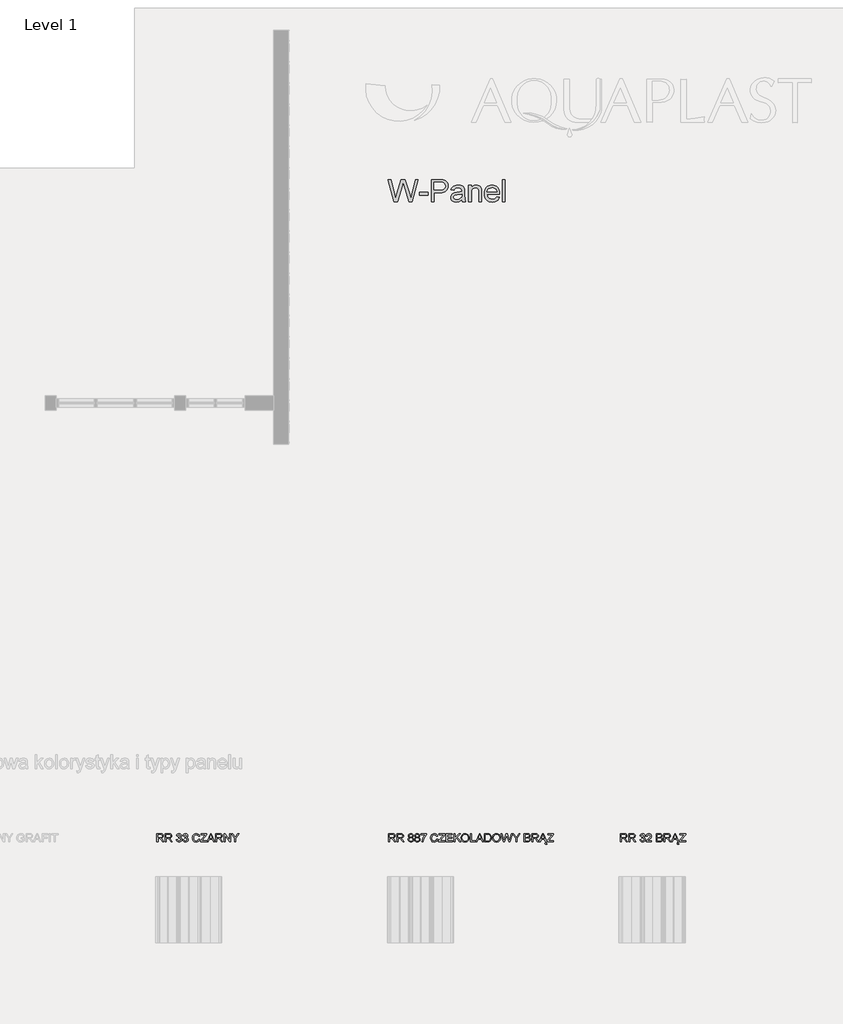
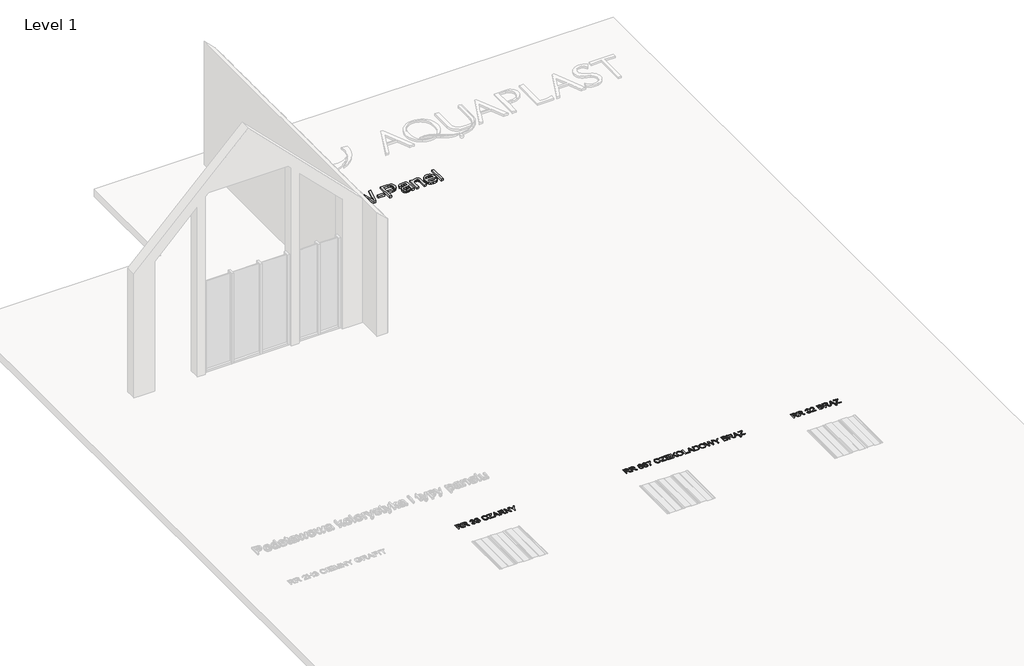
# One storey, part 9 of 9: 4 proxies.
"""IFC4 building model written with IfcOpenShell, lengths in millimetres."""

from ifc_helpers import new_model, si_unit, frame, origin, place, context, project, spatial, polyline, outline, extrude, element, save

model = new_model("IFC4")

# Units and contexts
model_context = context("Model", 3, world=origin())
ifc_project = project(units=[si_unit("LENGTHUNIT", "METRE", prefix="MILLI")], contexts=[model_context])

# Site, building, storey
site = spatial("IfcSite", under=ifc_project)
building = spatial("IfcBuilding", under=site)
storey = spatial("IfcBuildingStorey", under=building, Name="Level 1", Elevation=0.0)

# Proxies
placement = place(None, origin())
element("IfcBuildingElementProxy", 1, Name="150 Blue", ObjectType="150 Blue", at=placement, inside=storey, context=model_context, shape_type="SweptSolid", body=[
    extrude(outline(polyline([(-4536.4118342, 1464.3485888), (-4536.4118342, 1615.033054), (-4471.4806621, 1615.033054), (-4441.3327325, 1610.967958), (-4432.0529092, 1605.3393635), (-4424.8516192, 1596.583772), (-4420.2301016, 1585.7266546), (-4418.6895957, 1573.7934824), (-4421.2417771, 1558.9494439), (-4428.8983211, 1546.6437911), (-4441.8891541, 1537.6214852), (-4460.4442022, 1532.6274871), (-4449.7388361, 1524.5708714), (-4434.4717333, 1505.1834903), (-4409.3453931, 1464.3485888), (-4431.2343718, 1464.3485888), (-4450.8424821, 1495.5817702), (-4465.0059389, 1516.2567383), (-4474.9571469, 1526.0240053), (-4483.9150735, 1529.6108548), (-4494.8411687, 1530.2730423), (-4517.576276, 1530.2730423), (-4517.576276, 1464.3485888), (-4536.4118342, 1464.3485888)]), holes=[polyline([(-4517.576276, 1549.1086005), (-4475.4169994, 1549.1086005), (-4453.9142968, 1551.775745), (-4441.7006145, 1560.3106073), (-4437.5251539, 1573.0945066), (-4439.5163152, 1582.2823594), (-4445.4897991, 1589.6859846), (-4455.7675023, 1594.5696181), (-4470.6713217, 1596.1974959), (-4517.576276, 1596.1974959), (-4517.576276, 1549.1086005)])]), frame((0.0, 0.0, 600.0), z_axis=(0.0, 0.0, 1.0), x_axis=(1.0, 0.0, 0.0)), (0.0, 0.0, 1.0), 10.0),
    extrude(outline(polyline([(-4385.727369, 1464.3485888), (-4385.727369, 1615.033054), (-4320.7961968, 1615.033054), (-4290.6482673, 1610.967958), (-4281.368444, 1605.3393635), (-4274.1671539, 1596.583772), (-4269.5456364, 1585.7266546), (-4268.0051305, 1573.7934824), (-4270.5573119, 1558.9494439), (-4278.2138559, 1546.6437911), (-4291.2046888, 1537.6214852), (-4309.759737, 1532.6274871), (-4299.0543709, 1524.5708714), (-4283.7872681, 1505.1834903), (-4258.6609278, 1464.3485888), (-4280.5499066, 1464.3485888), (-4300.1580169, 1495.5817702), (-4314.3214737, 1516.2567383), (-4324.2726817, 1526.0240053), (-4333.2306083, 1529.6108548), (-4344.1567035, 1530.2730423), (-4366.8918108, 1530.2730423), (-4366.8918108, 1464.3485888), (-4385.727369, 1464.3485888)]), holes=[polyline([(-4366.8918108, 1549.1086005), (-4324.7325342, 1549.1086005), (-4303.2298316, 1551.775745), (-4291.0161493, 1560.3106073), (-4286.8406887, 1573.0945066), (-4288.83185, 1582.2823594), (-4294.8053339, 1589.6859846), (-4305.0830371, 1594.5696181), (-4319.9868564, 1596.1974959), (-4366.8918108, 1596.1974959), (-4366.8918108, 1549.1086005)])]), frame((0.0, 0.0, 600.0), z_axis=(0.0, 0.0, 1.0), x_axis=(1.0, 0.0, 0.0)), (0.0, 0.0, 1.0), 10.0),
    extrude(outline(polyline([(-4183.2451188, 1504.3741499), (-4164.4095607, 1506.7285947), (-4160.1927133, 1494.8919915), (-4154.0168943, 1486.8997551), (-4145.5786011, 1482.3472154), (-4134.5743309, 1480.8297022), (-4121.6616728, 1482.9174325), (-4111.6920708, 1489.1806235), (-4105.3185152, 1498.5248262), (-4103.1939967, 1509.8555916), (-4105.3001211, 1520.6115414), (-4111.6184944, 1529.3349433), (-4121.1834262, 1535.1152891), (-4133.0292265, 1537.0420711), (-4146.2361901, 1534.9819319), (-4144.1392627, 1553.81749), (-4141.1226304, 1553.5967608), (-4119.7486865, 1559.0046262), (-4112.6301699, 1565.8656254), (-4110.257331, 1575.6328924), (-4111.9771793, 1583.767683), (-4117.1367243, 1590.3665663), (-4125.009399, 1594.7397635), (-4134.8686365, 1596.1974959), (-4144.746268, 1594.7259679), (-4152.8212778, 1590.311384), (-4158.7165868, 1582.9537441), (-4162.0551159, 1572.6530482), (-4180.8906741, 1575.007493), (-4175.344853, 1591.9208677), (-4165.4764185, 1604.5484172), (-4151.9751492, 1612.4118948), (-4135.5308241, 1615.033054), (-4112.8141109, 1609.864312), (-4096.9216087, 1595.7376434), (-4091.4217728, 1576.7365383), (-4096.6456972, 1559.3725082), (-4112.096741, 1546.9013085), (-4100.306123, 1542.1372367), (-4091.5689256, 1534.0254387), (-4086.1610603, 1523.0073729), (-4084.3584385, 1509.5244978), (-4087.9636821, 1491.1671863), (-4098.7794127, 1475.8265071), (-4115.1041763, 1465.4522348), (-4135.2365185, 1461.994144), (-4153.4466772, 1464.9463971), (-4168.2723216, 1473.8031561), (-4178.5822145, 1487.3504106), (-4183.2451188, 1504.3741499)])), frame((0.0, 0.0, 600.0), z_axis=(0.0, 0.0, 1.0), x_axis=(1.0, 0.0, 0.0)), (0.0, 0.0, 1.0), 10.0),
    extrude(outline(polyline([(-4067.8773251, 1504.3741499), (-4049.041767, 1506.7285947), (-4044.8249196, 1494.8919915), (-4038.6491006, 1486.8997551), (-4030.2108074, 1482.3472154), (-4019.2065372, 1480.8297022), (-4006.2938792, 1482.9174325), (-3996.3242771, 1489.1806235), (-3989.9507215, 1498.5248262), (-3987.826203, 1509.8555916), (-3989.9323274, 1520.6115414), (-3996.2507007, 1529.3349433), (-4005.8156326, 1535.1152891), (-4017.6614328, 1537.0420711), (-4030.8683964, 1534.9819319), (-4028.7714691, 1553.81749), (-4025.7548367, 1553.5967608), (-4004.3808928, 1559.0046262), (-3997.2623762, 1565.8656254), (-3994.8895373, 1575.6328924), (-3996.6093856, 1583.767683), (-4001.7689306, 1590.3665663), (-4009.6416053, 1594.7397635), (-4019.5008428, 1596.1974959), (-4029.3784744, 1594.7259679), (-4037.4534841, 1590.311384), (-4043.3487931, 1582.9537441), (-4046.6873222, 1572.6530482), (-4065.5228804, 1575.007493), (-4059.9770593, 1591.9208677), (-4050.1086248, 1604.5484172), (-4036.6073556, 1612.4118948), (-4020.1630304, 1615.033054), (-3997.4463172, 1609.864312), (-3981.553815, 1595.7376434), (-3976.0539791, 1576.7365383), (-3981.2779035, 1559.3725082), (-3996.7289473, 1546.9013085), (-3984.9383293, 1542.1372367), (-3976.2011319, 1534.0254387), (-3970.7932666, 1523.0073729), (-3968.9906448, 1509.5244978), (-3972.5958884, 1491.1671863), (-3983.4116191, 1475.8265071), (-3999.7363826, 1465.4522348), (-4019.8687248, 1461.994144), (-4038.0788835, 1464.9463971), (-4052.9045279, 1473.8031561), (-4063.2144209, 1487.3504106), (-4067.8773251, 1504.3741499)])), frame((0.0, 0.0, 600.0), z_axis=(0.0, 0.0, 1.0), x_axis=(1.0, 0.0, 0.0)), (0.0, 0.0, 1.0), 10.0),
    extrude(outline(polyline([(-3780.6350633, 1517.9122073), (-3761.7995052, 1513.056165), (-3770.4907173, 1491.1074054), (-3784.1299423, 1475.072349), (-3802.0457954, 1465.2636953), (-3823.5668921, 1461.994144), (-3845.4144841, 1464.4681505), (-3862.7647187, 1471.8901697), (-3876.0636529, 1484.0026844), (-3885.7573434, 1500.5481771), (-3891.675645, 1519.9999376), (-3893.6484122, 1540.8312556), (-3891.4181276, 1562.8030078), (-3884.7272738, 1581.7765217), (-3873.9253388, 1597.1493905), (-3859.3618103, 1608.3192076), (-3842.0897506, 1615.120426), (-3823.162222, 1617.3874988), (-3802.5102464, 1614.4536399), (-3785.4359233, 1605.6520632), (-3772.4726815, 1591.5253945), (-3764.1539499, 1572.61626), (-3782.9895081, 1568.1280997), (-3789.5194135, 1581.8638936), (-3798.4405519, 1591.2862712), (-3809.8632878, 1596.7355233), (-3823.8979859, 1598.5519407), (-3840.0755967, 1596.5377867), (-3853.3653338, 1590.495325), (-3863.449899, 1581.0591518), (-3870.011994, 1568.8638636), (-3874.8128541, 1540.8680438), (-3873.3919099, 1523.4672254), (-3869.1290773, 1508.4208518), (-3861.8634078, 1496.3037386), (-3851.4339533, 1487.6907014), (-3838.930564, 1482.544952), (-3825.4430903, 1480.8297022), (-3809.7207336, 1483.1657529), (-3796.619536, 1490.1739049), (-3786.7281089, 1501.7805818), (-3780.6350633, 1517.9122073)])), frame((0.0, 0.0, 600.0), z_axis=(0.0, 0.0, 1.0), x_axis=(1.0, 0.0, 0.0)), (0.0, 0.0, 1.0), 10.0),
    extrude(outline(polyline([(-3747.6728365, 1464.3485888), (-3747.6728365, 1483.8831228), (-3670.6383468, 1578.2816427), (-3655.9966433, 1596.1974959), (-3738.2550575, 1596.1974959), (-3738.2550575, 1615.033054), (-3632.3050429, 1615.033054), (-3632.3050429, 1596.1974959), (-3716.6235962, 1492.8962316), (-3724.5698472, 1483.184147), (-3629.9505981, 1483.184147), (-3629.9505981, 1464.3485888), (-3747.6728365, 1464.3485888)])), frame((0.0, 0.0, 600.0), z_axis=(0.0, 0.0, 1.0), x_axis=(1.0, 0.0, 0.0)), (0.0, 0.0, 1.0), 10.0),
    extrude(outline(polyline([(-3626.2717781, 1464.3485888), (-3566.1230719, 1615.033054), (-3550.0834169, 1615.033054), (-3489.9714989, 1464.3485888), (-3509.8739149, 1464.3485888), (-3527.0907922, 1511.4374842), (-3589.189273, 1511.4374842), (-3606.4061504, 1464.3485888), (-3626.2717781, 1464.3485888)]), holes=[polyline([(-3582.2730915, 1530.2730423), (-3533.9701855, 1530.2730423), (-3547.5818194, 1567.3187593), (-3558.1400326, 1596.1974959), (-3567.5210235, 1570.5561208), (-3582.2730915, 1530.2730423)])]), frame((0.0, 0.0, 600.0), z_axis=(0.0, 0.0, 1.0), x_axis=(1.0, 0.0, 0.0)), (0.0, 0.0, 1.0), 10.0),
    extrude(outline(polyline([(-3469.8483538, 1464.3485888), (-3469.8483538, 1615.033054), (-3404.9171816, 1615.033054), (-3374.7692521, 1610.967958), (-3365.4894288, 1605.3393635), (-3358.2881387, 1596.583772), (-3353.6666212, 1585.7266546), (-3352.1261153, 1573.7934824), (-3354.6782967, 1558.9494439), (-3362.3348407, 1546.6437911), (-3375.3256737, 1537.6214852), (-3393.8807218, 1532.6274871), (-3383.1753557, 1524.5708714), (-3367.9082529, 1505.1834903), (-3342.7819127, 1464.3485888), (-3364.6708914, 1464.3485888), (-3384.2790017, 1495.5817702), (-3398.4424585, 1516.2567383), (-3408.3936665, 1526.0240053), (-3417.3515931, 1529.6108548), (-3428.2776883, 1530.2730423), (-3451.0127956, 1530.2730423), (-3451.0127956, 1464.3485888), (-3469.8483538, 1464.3485888)]), holes=[polyline([(-3451.0127956, 1549.1086005), (-3408.853519, 1549.1086005), (-3387.3508164, 1551.775745), (-3375.1371341, 1560.3106073), (-3370.9616735, 1573.0945066), (-3372.9528348, 1582.2823594), (-3378.9263187, 1589.6859846), (-3389.2040219, 1594.5696181), (-3404.1078412, 1596.1974959), (-3451.0127956, 1596.1974959), (-3451.0127956, 1549.1086005)])]), frame((0.0, 0.0, 600.0), z_axis=(0.0, 0.0, 1.0), x_axis=(1.0, 0.0, 0.0)), (0.0, 0.0, 1.0), 10.0),
    extrude(outline(polyline([(-3319.1638886, 1464.3485888), (-3319.1638886, 1615.033054), (-3299.0039552, 1615.033054), (-3220.2772083, 1495.6553466), (-3220.2772083, 1615.033054), (-3201.4416501, 1615.033054), (-3201.4416501, 1464.3485888), (-3221.6015834, 1464.3485888), (-3300.3283304, 1583.7630844), (-3300.3283304, 1464.3485888), (-3319.1638886, 1464.3485888)])), frame((0.0, 0.0, 600.0), z_axis=(0.0, 0.0, 1.0), x_axis=(1.0, 0.0, 0.0)), (0.0, 0.0, 1.0), 10.0),
    extrude(outline(polyline([(-3126.0994175, 1464.3485888), (-3126.0994175, 1528.176115), (-3184.9605367, 1615.033054), (-3162.7772524, 1615.033054), (-3131.36013, 1568.6431344), (-3115.2836868, 1544.951534), (-3099.1336672, 1570.3353916), (-3070.6228126, 1615.033054), (-3048.4027401, 1615.033054), (-3107.2638593, 1528.176115), (-3107.2638593, 1464.3485888), (-3126.0994175, 1464.3485888)])), frame((0.0, 0.0, 600.0), z_axis=(0.0, 0.0, 1.0), x_axis=(1.0, 0.0, 0.0)), (0.0, 0.0, 1.0), 10.0),
])
element("IfcBuildingElementProxy", 2, Name="150 Blue", ObjectType="150 Blue", at=placement, inside=storey, context=model_context, shape_type="SweptSolid", body=[
    extrude(outline(polyline([(-336.4118342, 1464.3485888), (-336.4118342, 1615.033054), (-271.4806621, 1615.033054), (-241.3327325, 1610.967958), (-232.0529092, 1605.3393635), (-224.8516192, 1596.583772), (-220.2301016, 1585.7266546), (-218.6895957, 1573.7934824), (-221.2417771, 1558.9494439), (-228.8983211, 1546.6437911), (-241.8891541, 1537.6214852), (-260.4442022, 1532.6274871), (-249.7388361, 1524.5708714), (-234.4717333, 1505.1834903), (-209.3453931, 1464.3485888), (-231.2343718, 1464.3485888), (-250.8424821, 1495.5817702), (-265.0059389, 1516.2567383), (-274.9571469, 1526.0240053), (-283.9150735, 1529.6108548), (-294.8411687, 1530.2730423), (-317.576276, 1530.2730423), (-317.576276, 1464.3485888), (-336.4118342, 1464.3485888)]), holes=[polyline([(-317.576276, 1549.1086005), (-275.4169994, 1549.1086005), (-253.9142968, 1551.775745), (-241.7006145, 1560.3106073), (-237.5251539, 1573.0945066), (-239.5163152, 1582.2823594), (-245.4897991, 1589.6859846), (-255.7675023, 1594.5696181), (-270.6713217, 1596.1974959), (-317.576276, 1596.1974959), (-317.576276, 1549.1086005)])]), frame((0.0, 0.0, 600.0), z_axis=(0.0, 0.0, 1.0), x_axis=(1.0, 0.0, 0.0)), (0.0, 0.0, 1.0), 10.0),
    extrude(outline(polyline([(-185.727369, 1464.3485888), (-185.727369, 1615.033054), (-120.7961968, 1615.033054), (-90.6482673, 1610.967958), (-81.368444, 1605.3393635), (-74.1671539, 1596.583772), (-69.5456364, 1585.7266546), (-68.0051305, 1573.7934824), (-70.5573119, 1558.9494439), (-78.2138559, 1546.6437911), (-91.2046888, 1537.6214852), (-109.759737, 1532.6274871), (-99.0543709, 1524.5708714), (-83.7872681, 1505.1834903), (-58.6609278, 1464.3485888), (-80.5499066, 1464.3485888), (-100.1580169, 1495.5817702), (-114.3214737, 1516.2567383), (-124.2726817, 1526.0240053), (-133.2306083, 1529.6108548), (-144.1567035, 1530.2730423), (-166.8918108, 1530.2730423), (-166.8918108, 1464.3485888), (-185.727369, 1464.3485888)]), holes=[polyline([(-166.8918108, 1549.1086005), (-124.7325342, 1549.1086005), (-103.2298316, 1551.775745), (-91.0161493, 1560.3106073), (-86.8406887, 1573.0945066), (-88.83185, 1582.2823594), (-94.8053339, 1589.6859846), (-105.0830371, 1594.5696181), (-119.9868564, 1596.1974959), (-166.8918108, 1596.1974959), (-166.8918108, 1549.1086005)])]), frame((0.0, 0.0, 600.0), z_axis=(0.0, 0.0, 1.0), x_axis=(1.0, 0.0, 0.0)), (0.0, 0.0, 1.0), 10.0),
    extrude(outline(polyline([(44.198878, 1547.3427669), (27.0371829, 1559.0414144), (21.4637707, 1577.2515731), (24.4987972, 1591.97605), (33.6038765, 1604.143747), (47.7581363, 1612.3107273), (65.9407039, 1615.033054), (84.2336361, 1612.2463479), (98.5718369, 1603.8862296), (107.8424632, 1591.5253945), (110.9326719, 1576.7365383), (105.4328361, 1558.9862321), (88.7493876, 1547.3427669), (100.342269, 1541.369283), (108.7805623, 1532.5723048), (113.9263117, 1521.3748966), (115.6415615, 1508.2001226), (112.238653, 1490.192299), (102.0299276, 1475.3114723), (86.2661842, 1465.3234761), (66.1982213, 1461.994144), (46.1302585, 1465.3372717), (30.366515, 1475.3666546), (20.1577896, 1490.3900355), (16.7548812, 1508.7151574), (18.5391088, 1522.4003677), (23.8917919, 1533.6575567), (32.5370188, 1542.1004485), (44.198878, 1547.3427669)]), holes=[polyline([(40.2993289, 1576.6997501), (41.9685934, 1568.4775875), (46.9763871, 1561.9108939), (55.175557, 1557.6066746), (66.4189505, 1556.1719348), (77.4002281, 1557.5974775), (85.4752379, 1561.8741057), (90.4416448, 1568.2200702), (92.0971138, 1575.8536216), (90.3864625, 1583.77688), (85.2545087, 1590.3297781), (77.0691343, 1594.7305664), (66.1982213, 1596.1974959), (55.2583305, 1594.7627561), (47.0867517, 1590.4585368), (41.9961846, 1584.1493605), (40.2993289, 1576.6997501)]), polyline([(35.5904393, 1509.377345), (38.7358304, 1495.1954941), (49.8642607, 1484.5820985), (66.3453741, 1480.8297022), (79.1660616, 1482.8024694), (88.7861758, 1488.720771), (94.8010464, 1497.6832961), (96.8060033, 1508.7887338), (94.7366671, 1520.0827111), (88.5286584, 1529.2429728), (78.6878151, 1535.3130257), (65.7199747, 1537.3363767), (53.0786297, 1535.3406168), (43.5550845, 1529.3533374), (37.5816006, 1520.3678196), (35.5904393, 1509.377345)])]), frame((0.0, 0.0, 600.0), z_axis=(0.0, 0.0, 1.0), x_axis=(1.0, 0.0, 0.0)), (0.0, 0.0, 1.0), 10.0),
    extrude(outline(polyline([(159.5666717, 1547.3427669), (142.4049766, 1559.0414144), (136.8315644, 1577.2515731), (139.8665909, 1591.97605), (148.9716702, 1604.143747), (163.12593, 1612.3107273), (181.3084976, 1615.033054), (199.6014298, 1612.2463479), (213.9396306, 1603.8862296), (223.2102569, 1591.5253945), (226.3004656, 1576.7365383), (220.8006298, 1558.9862321), (204.1171813, 1547.3427669), (215.7100627, 1541.369283), (224.1483559, 1532.5723048), (229.2941054, 1521.3748966), (231.0093552, 1508.2001226), (227.6064467, 1490.192299), (217.3977213, 1475.3114723), (201.6339778, 1465.3234761), (181.566015, 1461.994144), (161.4980522, 1465.3372717), (145.7343087, 1475.3666546), (135.5255833, 1490.3900355), (132.1226749, 1508.7151574), (133.9069025, 1522.4003677), (139.2595856, 1533.6575567), (147.9048124, 1542.1004485), (159.5666717, 1547.3427669)]), holes=[polyline([(155.6671225, 1576.6997501), (157.3363871, 1568.4775875), (162.3441808, 1561.9108939), (170.5433507, 1557.6066746), (181.7867442, 1556.1719348), (192.7680218, 1557.5974775), (200.8430316, 1561.8741057), (205.8094385, 1568.2200702), (207.4649075, 1575.8536216), (205.7542562, 1583.77688), (200.6223024, 1590.3297781), (192.436928, 1594.7305664), (181.566015, 1596.1974959), (170.6261242, 1594.7627561), (162.4545454, 1590.4585368), (157.3639782, 1584.1493605), (155.6671225, 1576.6997501)]), polyline([(150.958233, 1509.377345), (154.1036241, 1495.1954941), (165.2320544, 1484.5820985), (181.7131678, 1480.8297022), (194.5338553, 1482.8024694), (204.1539695, 1488.720771), (210.1688401, 1497.6832961), (212.173797, 1508.7887338), (210.1044608, 1520.0827111), (203.8964521, 1529.2429728), (194.0556087, 1535.3130257), (181.0877684, 1537.3363767), (168.4464234, 1535.3406168), (158.9228782, 1529.3533374), (152.9493943, 1520.3678196), (150.958233, 1509.377345)])]), frame((0.0, 0.0, 600.0), z_axis=(0.0, 0.0, 1.0), x_axis=(1.0, 0.0, 0.0)), (0.0, 0.0, 1.0), 10.0),
    extrude(outline(polyline([(247.4904685, 1593.8430511), (247.4904685, 1612.6786093), (346.3771488, 1612.6786093), (346.3771488, 1597.4482947), (318.3261467, 1556.9260929), (306.0158954, 1531.4640603), (296.8602323, 1505.2938549), (289.8704744, 1464.3485888), (271.0349162, 1464.3485888), (278.5213148, 1506.8389593), (287.2355196, 1531.2985134), (299.0675243, 1554.8659537), (327.5415907, 1593.8430511), (247.4904685, 1593.8430511)])), frame((0.0, 0.0, 600.0), z_axis=(0.0, 0.0, 1.0), x_axis=(1.0, 0.0, 0.0)), (0.0, 0.0, 1.0), 10.0),
    extrude(outline(polyline([(534.7327304, 1517.9122073), (553.5682885, 1513.056165), (544.8770764, 1491.1074054), (531.2378514, 1475.072349), (513.3219983, 1465.2636953), (491.8009015, 1461.994144), (469.9533096, 1464.4681505), (452.603075, 1471.8901697), (439.3041408, 1484.0026844), (429.6104503, 1500.5481771), (423.6921487, 1519.9999376), (421.7193815, 1540.8312556), (423.9496661, 1562.8030078), (430.6405198, 1581.7765217), (441.4424549, 1597.1493905), (456.0059834, 1608.3192076), (473.2780431, 1615.120426), (492.2055717, 1617.3874988), (512.8575472, 1614.4536399), (529.9318703, 1605.6520632), (542.8951121, 1591.5253945), (551.2138438, 1572.61626), (532.3782856, 1568.1280997), (525.8483802, 1581.8638936), (516.9272418, 1591.2862712), (505.5045059, 1596.7355233), (491.4698077, 1598.5519407), (475.292197, 1596.5377867), (462.0024599, 1590.495325), (451.9178947, 1581.0591518), (445.3557996, 1568.8638636), (440.5549396, 1540.8680438), (441.9758838, 1523.4672254), (446.2387164, 1508.4208518), (453.5043858, 1496.3037386), (463.9338404, 1487.6907014), (476.4372297, 1482.544952), (489.9247034, 1480.8297022), (505.6470601, 1483.1657529), (518.7482577, 1490.1739049), (528.6396848, 1501.7805818), (534.7327304, 1517.9122073)])), frame((0.0, 0.0, 600.0), z_axis=(0.0, 0.0, 1.0), x_axis=(1.0, 0.0, 0.0)), (0.0, 0.0, 1.0), 10.0),
    extrude(outline(polyline([(567.6949571, 1464.3485888), (567.6949571, 1483.8831228), (644.7294469, 1578.2816427), (659.3711503, 1596.1974959), (577.1127362, 1596.1974959), (577.1127362, 1615.033054), (683.0627508, 1615.033054), (683.0627508, 1596.1974959), (598.7441975, 1492.8962316), (590.7979464, 1483.184147), (685.4171956, 1483.184147), (685.4171956, 1464.3485888), (567.6949571, 1464.3485888)])), frame((0.0, 0.0, 600.0), z_axis=(0.0, 0.0, 1.0), x_axis=(1.0, 0.0, 0.0)), (0.0, 0.0, 1.0), 10.0),
    extrude(outline(polyline([(706.6071985, 1464.3485888), (706.6071985, 1615.033054), (814.9116579, 1615.033054), (814.9116579, 1596.1974959), (725.4427567, 1596.1974959), (725.4427567, 1551.4630453), (810.2027684, 1551.4630453), (810.2027684, 1532.6274871), (725.4427567, 1532.6274871), (725.4427567, 1483.184147), (817.2661027, 1483.184147), (817.2661027, 1464.3485888), (706.6071985, 1464.3485888)])), frame((0.0, 0.0, 600.0), z_axis=(0.0, 0.0, 1.0), x_axis=(1.0, 0.0, 0.0)), (0.0, 0.0, 1.0), 10.0),
    extrude(outline(polyline([(845.5194399, 1464.3485888), (845.5194399, 1615.033054), (864.3549981, 1615.033054), (864.3549981, 1541.272714), (941.610217, 1615.033054), (967.9505679, 1615.033054), (903.0561839, 1553.081726), (970.3050127, 1464.3485888), (947.2755998, 1464.3485888), (889.7020675, 1540.353009), (864.3549981, 1516.1463737), (864.3549981, 1464.3485888), (845.5194399, 1464.3485888)])), frame((0.0, 0.0, 600.0), z_axis=(0.0, 0.0, 1.0), x_axis=(1.0, 0.0, 0.0)), (0.0, 0.0, 1.0), 10.0),
    extrude(outline(polyline([(977.368347, 1537.7042587), (982.3899362, 1571.0251704), (988.6669227, 1584.643702), (997.4547039, 1596.2342841), (1020.4565257, 1612.0991951), (1049.289277, 1617.3874988), (1069.0537372, 1614.9042953), (1086.7764523, 1607.4546849), (1101.4917321, 1595.5628994), (1112.2338864, 1579.7531707), (1118.80058, 1560.7888538), (1120.9894779, 1539.433304), (1118.6856169, 1517.7926457), (1111.7740339, 1498.5616144), (1100.6364065, 1482.7242945), (1085.6544123, 1471.2647703), (1068.0834485, 1464.3118006), (1049.1789124, 1461.994144), (1029.1109496, 1464.5555224), (1011.2870669, 1472.2396576), (996.6085753, 1484.3521723), (985.9767857, 1500.1986892), (979.5204566, 1518.4318406), (977.368347, 1537.7042587)]), holes=[polyline([(996.2039051, 1537.5203177), (999.9700971, 1513.9482788), (1011.2686728, 1495.9864404), (1028.2510254, 1484.6188867), (1049.0685478, 1480.8297022), (1070.1895729, 1484.6556749), (1087.1995166, 1496.1335932), (1098.415319, 1514.6472546), (1102.1539197, 1539.5804568), (1100.5536331, 1556.2547083), (1095.752773, 1570.6664854), (1087.8754998, 1582.4525048), (1077.0459736, 1591.249483), (1063.9815642, 1596.7263263), (1049.3996416, 1598.5519407), (1029.1385407, 1595.0340691), (1011.9124663, 1584.4804543), (1000.1310454, 1565.704677), (996.2039051, 1537.5203177)])]), frame((0.0, 0.0, 600.0), z_axis=(0.0, 0.0, 1.0), x_axis=(1.0, 0.0, 0.0)), (0.0, 0.0, 1.0), 10.0),
    extrude(outline(polyline([(1146.8883704, 1464.3485888), (1146.8883704, 1615.033054), (1165.7239285, 1615.033054), (1165.7239285, 1483.184147), (1241.0661611, 1483.184147), (1241.0661611, 1464.3485888), (1146.8883704, 1464.3485888)])), frame((0.0, 0.0, 600.0), z_axis=(0.0, 0.0, 1.0), x_axis=(1.0, 0.0, 0.0)), (0.0, 0.0, 1.0), 10.0),
    extrude(outline(polyline([(1244.7449811, 1464.3485888), (1304.8936873, 1615.033054), (1320.9333423, 1615.033054), (1381.0452603, 1464.3485888), (1361.1428443, 1464.3485888), (1343.925967, 1511.4374842), (1281.8274862, 1511.4374842), (1264.6106088, 1464.3485888), (1244.7449811, 1464.3485888)]), holes=[polyline([(1288.7436677, 1530.2730423), (1337.0465737, 1530.2730423), (1323.4349398, 1567.3187593), (1312.8767266, 1596.1974959), (1303.4957357, 1570.5561208), (1288.7436677, 1530.2730423)])]), frame((0.0, 0.0, 600.0), z_axis=(0.0, 0.0, 1.0), x_axis=(1.0, 0.0, 0.0)), (0.0, 0.0, 1.0), 10.0),
    extrude(outline(polyline([(1401.1684054, 1464.3485888), (1401.1684054, 1615.033054), (1453.1501313, 1615.033054), (1480.0423052, 1612.8625503), (1502.1888013, 1602.0836078), (1512.6090588, 1590.6056896), (1520.0310781, 1576.3318681), (1524.4732531, 1559.5380551), (1525.9539782, 1540.5001618), (1521.9440644, 1510.0947149), (1511.6433686, 1488.1505539), (1497.8845819, 1474.4837378), (1479.8767583, 1466.9237628), (1455.6517289, 1464.3485888), (1401.1684054, 1464.3485888)]), holes=[polyline([(1420.0039636, 1483.184147), (1453.3340723, 1483.184147), (1477.5774958, 1485.9064737), (1491.5570116, 1493.5952074), (1503.0165358, 1512.3020069), (1507.11842, 1540.7944674), (1505.1088646, 1561.3222827), (1499.0801984, 1576.4790209), (1490.1728556, 1586.8900814), (1479.5272704, 1593.1808635), (1452.8190375, 1596.1974959), (1420.0039636, 1596.1974959), (1420.0039636, 1483.184147)])]), frame((0.0, 0.0, 600.0), z_axis=(0.0, 0.0, 1.0), x_axis=(1.0, 0.0, 0.0)), (0.0, 0.0, 1.0), 10.0),
    extrude(outline(polyline([(1544.7895363, 1537.7042587), (1549.8111256, 1571.0251704), (1556.0881121, 1584.643702), (1564.8758933, 1596.2342841), (1587.877715, 1612.0991951), (1616.7104664, 1617.3874988), (1636.4749266, 1614.9042953), (1654.1976417, 1607.4546849), (1668.9129215, 1595.5628994), (1679.6550758, 1579.7531707), (1686.2217694, 1560.7888538), (1688.4106673, 1539.433304), (1686.1068063, 1517.7926457), (1679.1952233, 1498.5616144), (1668.0575959, 1482.7242945), (1653.0756016, 1471.2647703), (1635.5046378, 1464.3118006), (1616.6001018, 1461.994144), (1596.532139, 1464.5555224), (1578.7082563, 1472.2396576), (1564.0297647, 1484.3521723), (1553.397975, 1500.1986892), (1546.941646, 1518.4318406), (1544.7895363, 1537.7042587)]), holes=[polyline([(1563.6250945, 1537.5203177), (1567.3912864, 1513.9482788), (1578.6898622, 1495.9864404), (1595.6722148, 1484.6188867), (1616.4897372, 1480.8297022), (1637.6107622, 1484.6556749), (1654.620706, 1496.1335932), (1665.8365083, 1514.6472546), (1669.5751091, 1539.5804568), (1667.9748224, 1556.2547083), (1663.1739624, 1570.6664854), (1655.2966892, 1582.4525048), (1644.4671629, 1591.249483), (1631.4027536, 1596.7263263), (1616.820831, 1598.5519407), (1596.5597301, 1595.0340691), (1579.3336557, 1584.4804543), (1567.5522348, 1565.704677), (1563.6250945, 1537.5203177)])]), frame((0.0, 0.0, 600.0), z_axis=(0.0, 0.0, 1.0), x_axis=(1.0, 0.0, 0.0)), (0.0, 0.0, 1.0), 10.0),
    extrude(outline(polyline([(1741.27531, 1464.3485888), (1700.1828911, 1615.033054), (1719.6070604, 1615.033054), (1743.4458137, 1515.9992209), (1750.8034536, 1485.4282271), (1758.6761283, 1512.4675538), (1788.5481463, 1615.033054), (1816.5439662, 1615.033054), (1838.2490039, 1540.6841028), (1854.3990235, 1485.4282271), (1861.5359342, 1515.1163041), (1885.5586285, 1615.033054), (1905.019586, 1615.033054), (1863.9639553, 1464.3485888), (1843.804022, 1464.3485888), (1807.6412219, 1580.5992993), (1802.6012386, 1596.8228953), (1796.9358558, 1577.2883613), (1764.0104173, 1464.3485888), (1741.27531, 1464.3485888)])), frame((0.0, 0.0, 600.0), z_axis=(0.0, 0.0, 1.0), x_axis=(1.0, 0.0, 0.0)), (0.0, 0.0, 1.0), 10.0),
    extrude(outline(polyline([(1966.23515, 1464.3485888), (1966.23515, 1528.176115), (1907.3740308, 1615.033054), (1929.5573151, 1615.033054), (1960.9744375, 1568.6431344), (1977.0508807, 1544.951534), (1993.2009003, 1570.3353916), (2021.7117549, 1615.033054), (2043.9318274, 1615.033054), (1985.0707082, 1528.176115), (1985.0707082, 1464.3485888), (1966.23515, 1464.3485888)])), frame((0.0, 0.0, 600.0), z_axis=(0.0, 0.0, 1.0), x_axis=(1.0, 0.0, 0.0)), (0.0, 0.0, 1.0), 10.0),
    extrude(outline(polyline([(2119.27406, 1464.3485888), (2119.27406, 1615.033054), (2176.7740158, 1615.033054), (2204.9353826, 1610.600076), (2214.3991469, 1604.97608), (2221.5636488, 1596.9700481), (2227.5785194, 1577.6930315), (2222.5201419, 1560.0898781), (2207.234645, 1546.7541557), (2217.9078214, 1541.1807435), (2225.7942917, 1532.7010635), (2230.6641296, 1521.8761358), (2232.2874089, 1509.2669804), (2227.8544309, 1489.0150766), (2216.8731533, 1474.5941024), (2200.4840104, 1466.9421569), (2176.3325575, 1464.3485888), (2119.27406, 1464.3485888)]), holes=[polyline([(2138.1096182, 1553.81749), (2172.5065847, 1553.81749), (2192.5929416, 1555.4361708), (2204.6778652, 1562.4075346), (2208.7429612, 1574.6763992), (2204.9537767, 1586.9636578), (2194.1012578, 1594.2293272), (2169.8946225, 1596.1974959), (2138.1096182, 1596.1974959), (2138.1096182, 1553.81749)]), polyline([(2138.1096182, 1483.184147), (2176.7372276, 1483.184147), (2190.7167435, 1483.919911), (2202.5441496, 1488.0217952), (2210.3800361, 1496.3911106), (2213.4518508, 1509.0830394), (2209.8466072, 1523.7247428), (2198.1663539, 1532.4619402), (2174.8978177, 1534.9819319), (2138.1096182, 1534.9819319), (2138.1096182, 1483.184147)])]), frame((0.0, 0.0, 600.0), z_axis=(0.0, 0.0, 1.0), x_axis=(1.0, 0.0, 0.0)), (0.0, 0.0, 1.0), 10.0),
    extrude(outline(polyline([(2258.1863014, 1464.3485888), (2258.1863014, 1615.033054), (2323.1174735, 1615.033054), (2353.265403, 1610.967958), (2362.5452264, 1605.3393635), (2369.7465164, 1596.583772), (2374.368034, 1585.7266546), (2375.9085398, 1573.7934824), (2373.3563585, 1558.9494439), (2365.6998145, 1546.6437911), (2352.7089815, 1537.6214852), (2334.1539334, 1532.6274871), (2344.8592994, 1524.5708714), (2360.1264022, 1505.1834903), (2385.2527425, 1464.3485888), (2363.3637638, 1464.3485888), (2343.7556535, 1495.5817702), (2329.5921966, 1516.2567383), (2319.6409887, 1526.0240053), (2310.6830621, 1529.6108548), (2299.7569668, 1530.2730423), (2277.0218595, 1530.2730423), (2277.0218595, 1464.3485888), (2258.1863014, 1464.3485888)]), holes=[polyline([(2277.0218595, 1549.1086005), (2319.1811362, 1549.1086005), (2340.6838388, 1551.775745), (2352.897521, 1560.3106073), (2357.0729817, 1573.0945066), (2355.0818204, 1582.2823594), (2349.1083365, 1589.6859846), (2338.8306332, 1594.5696181), (2323.9268139, 1596.1974959), (2277.0218595, 1596.1974959), (2277.0218595, 1549.1086005)])]), frame((0.0, 0.0, 600.0), z_axis=(0.0, 0.0, 1.0), x_axis=(1.0, 0.0, 0.0)), (0.0, 0.0, 1.0), 10.0),
    extrude(outline(polyline([(2391.3595836, 1464.3485888), (2451.5082898, 1615.033054), (2467.5479448, 1615.033054), (2527.6598628, 1464.3485888), (2524.7535951, 1464.3485888), (2515.6853039, 1455.2435094), (2512.4663364, 1444.2622319), (2514.7655989, 1436.7942274), (2522.2152093, 1433.7408068), (2526.9240989, 1434.4029944), (2531.3018946, 1436.168828), (2531.3018946, 1423.1825936), (2518.094931, 1419.6141382), (2509.43131, 1421.1224544), (2503.2508925, 1425.2795209), (2499.5536784, 1431.3679679), (2498.3396678, 1438.7440019), (2502.0184878, 1452.1165125), (2512.4295482, 1464.3485888), (2507.7574469, 1464.3485888), (2490.5405695, 1511.4374842), (2428.4420887, 1511.4374842), (2411.2252114, 1464.3485888), (2391.3595836, 1464.3485888)]), holes=[polyline([(2435.3582703, 1530.2730423), (2483.6611762, 1530.2730423), (2470.0495424, 1567.3187593), (2459.4913291, 1596.1974959), (2450.1103383, 1570.5561208), (2435.3582703, 1530.2730423)])]), frame((0.0, 0.0, 600.0), z_axis=(0.0, 0.0, 1.0), x_axis=(1.0, 0.0, 0.0)), (0.0, 0.0, 1.0), 10.0),
    extrude(outline(polyline([(2536.0107841, 1464.3485888), (2536.0107841, 1483.8831228), (2613.0452739, 1578.2816427), (2627.6869773, 1596.1974959), (2545.4285632, 1596.1974959), (2545.4285632, 1615.033054), (2651.3785778, 1615.033054), (2651.3785778, 1596.1974959), (2567.0600245, 1492.8962316), (2559.1137734, 1483.184147), (2653.7330226, 1483.184147), (2653.7330226, 1464.3485888), (2536.0107841, 1464.3485888)])), frame((0.0, 0.0, 600.0), z_axis=(0.0, 0.0, 1.0), x_axis=(1.0, 0.0, 0.0)), (0.0, 0.0, 1.0), 10.0),
])
element("IfcBuildingElementProxy", 3, Name="150 Blue", ObjectType="150 Blue", at=placement, inside=storey, context=model_context, shape_type="SweptSolid", body=[
    extrude(outline(polyline([(3863.5881658, 1464.3485888), (3863.5881658, 1615.033054), (3928.5193379, 1615.033054), (3958.6672675, 1610.967958), (3967.9470908, 1605.3393635), (3975.1483808, 1596.583772), (3979.7698984, 1585.7266546), (3981.3104043, 1573.7934824), (3978.7582229, 1558.9494439), (3971.1016789, 1546.6437911), (3958.1108459, 1537.6214852), (3939.5557978, 1532.6274871), (3950.2611639, 1524.5708714), (3965.5282667, 1505.1834903), (3990.6546069, 1464.3485888), (3968.7656282, 1464.3485888), (3949.1575179, 1495.5817702), (3934.9940611, 1516.2567383), (3925.0428531, 1526.0240053), (3916.0849265, 1529.6108548), (3905.1588313, 1530.2730423), (3882.423724, 1530.2730423), (3882.423724, 1464.3485888), (3863.5881658, 1464.3485888)]), holes=[polyline([(3882.423724, 1549.1086005), (3924.5830006, 1549.1086005), (3946.0857032, 1551.775745), (3958.2993855, 1560.3106073), (3962.4748461, 1573.0945066), (3960.4836848, 1582.2823594), (3954.5102009, 1589.6859846), (3944.2324977, 1594.5696181), (3929.3286783, 1596.1974959), (3882.423724, 1596.1974959), (3882.423724, 1549.1086005)])]), frame((0.0, 0.0, 600.0), z_axis=(0.0, 0.0, 1.0), x_axis=(1.0, 0.0, 0.0)), (0.0, 0.0, 1.0), 10.0),
    extrude(outline(polyline([(4014.272631, 1464.3485888), (4014.272631, 1615.033054), (4079.2038032, 1615.033054), (4109.3517327, 1610.967958), (4118.631556, 1605.3393635), (4125.8328461, 1596.583772), (4130.4543636, 1585.7266546), (4131.9948695, 1573.7934824), (4129.4426881, 1558.9494439), (4121.7861441, 1546.6437911), (4108.7953112, 1537.6214852), (4090.240263, 1532.6274871), (4100.9456291, 1524.5708714), (4116.2127319, 1505.1834903), (4141.3390722, 1464.3485888), (4119.4500934, 1464.3485888), (4099.8419831, 1495.5817702), (4085.6785263, 1516.2567383), (4075.7273183, 1526.0240053), (4066.7693917, 1529.6108548), (4055.8432965, 1530.2730423), (4033.1081892, 1530.2730423), (4033.1081892, 1464.3485888), (4014.272631, 1464.3485888)]), holes=[polyline([(4033.1081892, 1549.1086005), (4075.2674658, 1549.1086005), (4096.7701684, 1551.775745), (4108.9838507, 1560.3106073), (4113.1593113, 1573.0945066), (4111.16815, 1582.2823594), (4105.1946661, 1589.6859846), (4094.9169629, 1594.5696181), (4080.0131436, 1596.1974959), (4033.1081892, 1596.1974959), (4033.1081892, 1549.1086005)])]), frame((0.0, 0.0, 600.0), z_axis=(0.0, 0.0, 1.0), x_axis=(1.0, 0.0, 0.0)), (0.0, 0.0, 1.0), 10.0),
    extrude(outline(polyline([(4216.7548812, 1504.3741499), (4235.5904393, 1506.7285947), (4239.8072867, 1494.8919915), (4245.9831057, 1486.8997551), (4254.4213989, 1482.3472154), (4265.4256691, 1480.8297022), (4278.3383272, 1482.9174325), (4288.3079292, 1489.1806235), (4294.6814848, 1498.5248262), (4296.8060033, 1509.8555916), (4294.6998789, 1520.6115414), (4288.3815056, 1529.3349433), (4278.8165738, 1535.1152891), (4266.9707735, 1537.0420711), (4253.7638099, 1534.9819319), (4255.8607373, 1553.81749), (4258.8773696, 1553.5967608), (4280.2513135, 1559.0046262), (4287.3698301, 1565.8656254), (4289.742669, 1575.6328924), (4288.0228207, 1583.767683), (4282.8632757, 1590.3665663), (4274.990601, 1594.7397635), (4265.1313635, 1596.1974959), (4255.253732, 1594.7259679), (4247.1787222, 1590.311384), (4241.2834132, 1582.9537441), (4237.9448841, 1572.6530482), (4219.1093259, 1575.007493), (4224.655147, 1591.9208677), (4234.5235815, 1604.5484172), (4248.0248508, 1612.4118948), (4264.4691759, 1615.033054), (4287.1858891, 1609.864312), (4303.0783913, 1595.7376434), (4308.5782272, 1576.7365383), (4303.3543028, 1559.3725082), (4287.903259, 1546.9013085), (4299.693877, 1542.1372367), (4308.4310744, 1534.0254387), (4313.8389397, 1523.0073729), (4315.6415615, 1509.5244978), (4312.0363179, 1491.1671863), (4301.2205873, 1475.8265071), (4284.8958237, 1465.4522348), (4264.7634815, 1461.994144), (4246.5533228, 1464.9463971), (4231.7276784, 1473.8031561), (4221.4177855, 1487.3504106), (4216.7548812, 1504.3741499)])), frame((0.0, 0.0, 600.0), z_axis=(0.0, 0.0, 1.0), x_axis=(1.0, 0.0, 0.0)), (0.0, 0.0, 1.0), 10.0),
    extrude(outline(polyline([(4428.6549104, 1483.184147), (4428.6549104, 1464.3485888), (4329.7682301, 1464.3485888), (4331.7915811, 1477.3348232), (4343.2511052, 1497.3292097), (4366.8507352, 1519.1630061), (4399.3531095, 1550.5433403), (4405.436958, 1561.3590709), (4407.4649075, 1571.880496), (4405.5473226, 1581.3120707), (4399.7945679, 1589.1525557), (4390.9516044, 1594.4362608), (4379.7633932, 1596.1974959), (4368.014162, 1594.4776476), (4358.88609, 1589.3181026), (4352.9953796, 1581.1235311), (4350.958233, 1570.2986034), (4332.1226749, 1572.6530482), (4336.6890101, 1590.872404), (4346.5620432, 1604.1805352), (4361.2267392, 1612.3199243), (4380.1680634, 1615.033054), (4399.2473434, 1612.0164217), (4413.8844483, 1602.9665246), (4423.1964613, 1589.4468613), (4426.3004656, 1573.0209302), (4422.9527395, 1555.1602593), (4411.8243091, 1536.6925832), (4384.8401648, 1510.8856612), (4363.1719152, 1492.7674729), (4354.6738412, 1483.184147), (4428.6549104, 1483.184147)])), frame((0.0, 0.0, 600.0), z_axis=(0.0, 0.0, 1.0), x_axis=(1.0, 0.0, 0.0)), (0.0, 0.0, 1.0), 10.0),
    extrude(outline(polyline([(4513.4149221, 1464.3485888), (4513.4149221, 1615.033054), (4570.9148779, 1615.033054), (4599.0762447, 1610.600076), (4608.540009, 1604.97608), (4615.7045108, 1596.9700481), (4621.7193815, 1577.6930315), (4616.661004, 1560.0898781), (4601.3755071, 1546.7541557), (4612.0486835, 1541.1807435), (4619.9351538, 1532.7010635), (4624.8049917, 1521.8761358), (4626.428271, 1509.2669804), (4621.995293, 1489.0150766), (4611.0140154, 1474.5941024), (4594.6248725, 1466.9421569), (4570.4734195, 1464.3485888), (4513.4149221, 1464.3485888)]), holes=[polyline([(4532.2504802, 1553.81749), (4566.6474468, 1553.81749), (4586.7338037, 1555.4361708), (4598.8187273, 1562.4075346), (4602.8838233, 1574.6763992), (4599.0946388, 1586.9636578), (4588.2421199, 1594.2293272), (4564.0354846, 1596.1974959), (4532.2504802, 1596.1974959), (4532.2504802, 1553.81749)]), polyline([(4532.2504802, 1483.184147), (4570.8780897, 1483.184147), (4584.8576055, 1483.919911), (4596.6850117, 1488.0217952), (4604.5208982, 1496.3911106), (4607.5927128, 1509.0830394), (4603.9874693, 1523.7247428), (4592.3072159, 1532.4619402), (4569.0386797, 1534.9819319), (4532.2504802, 1534.9819319), (4532.2504802, 1483.184147)])]), frame((0.0, 0.0, 600.0), z_axis=(0.0, 0.0, 1.0), x_axis=(1.0, 0.0, 0.0)), (0.0, 0.0, 1.0), 10.0),
    extrude(outline(polyline([(4652.3271635, 1464.3485888), (4652.3271635, 1615.033054), (4717.2583356, 1615.033054), (4747.4062651, 1610.967958), (4756.6860884, 1605.3393635), (4763.8873785, 1596.583772), (4768.5088961, 1585.7266546), (4770.0494019, 1573.7934824), (4767.4972206, 1558.9494439), (4759.8406765, 1546.6437911), (4746.8498436, 1537.6214852), (4728.2947955, 1532.6274871), (4739.0001615, 1524.5708714), (4754.2672643, 1505.1834903), (4779.3936046, 1464.3485888), (4757.5046259, 1464.3485888), (4737.8965155, 1495.5817702), (4723.7330587, 1516.2567383), (4713.7818508, 1526.0240053), (4704.8239242, 1529.6108548), (4693.8978289, 1530.2730423), (4671.1627216, 1530.2730423), (4671.1627216, 1464.3485888), (4652.3271635, 1464.3485888)]), holes=[polyline([(4671.1627216, 1549.1086005), (4713.3219983, 1549.1086005), (4734.8247009, 1551.775745), (4747.0383831, 1560.3106073), (4751.2138438, 1573.0945066), (4749.2226825, 1582.2823594), (4743.2491986, 1589.6859846), (4732.9714953, 1594.5696181), (4718.067676, 1596.1974959), (4671.1627216, 1596.1974959), (4671.1627216, 1549.1086005)])]), frame((0.0, 0.0, 600.0), z_axis=(0.0, 0.0, 1.0), x_axis=(1.0, 0.0, 0.0)), (0.0, 0.0, 1.0), 10.0),
    extrude(outline(polyline([(4785.5004457, 1464.3485888), (4845.6491519, 1615.033054), (4861.6888069, 1615.033054), (4921.8007249, 1464.3485888), (4918.8944572, 1464.3485888), (4909.826166, 1455.2435094), (4906.6071985, 1444.2622319), (4908.906461, 1436.7942274), (4916.3560714, 1433.7408068), (4921.0649609, 1434.4029944), (4925.4427567, 1436.168828), (4925.4427567, 1423.1825936), (4912.235793, 1419.6141382), (4903.5721721, 1421.1224544), (4897.3917545, 1425.2795209), (4893.6945405, 1431.3679679), (4892.4805299, 1438.7440019), (4896.1593499, 1452.1165125), (4906.5704103, 1464.3485888), (4901.898309, 1464.3485888), (4884.6814316, 1511.4374842), (4822.5829508, 1511.4374842), (4805.3660735, 1464.3485888), (4785.5004457, 1464.3485888)]), holes=[polyline([(4829.4991323, 1530.2730423), (4877.8020383, 1530.2730423), (4864.1904045, 1567.3187593), (4853.6321912, 1596.1974959), (4844.2512003, 1570.5561208), (4829.4991323, 1530.2730423)])]), frame((0.0, 0.0, 600.0), z_axis=(0.0, 0.0, 1.0), x_axis=(1.0, 0.0, 0.0)), (0.0, 0.0, 1.0), 10.0),
    extrude(outline(polyline([(4930.1516462, 1464.3485888), (4930.1516462, 1483.8831228), (5007.186136, 1578.2816427), (5021.8278394, 1596.1974959), (4939.5694253, 1596.1974959), (4939.5694253, 1615.033054), (5045.5194399, 1615.033054), (5045.5194399, 1596.1974959), (4961.2008866, 1492.8962316), (4953.2546355, 1483.184147), (5047.8738847, 1483.184147), (5047.8738847, 1464.3485888), (4930.1516462, 1464.3485888)])), frame((0.0, 0.0, 600.0), z_axis=(0.0, 0.0, 1.0), x_axis=(1.0, 0.0, 0.0)), (0.0, 0.0, 1.0), 10.0),
])
element("IfcBuildingElementProxy", 4, Name="400", ObjectType="400", at=placement, inside=storey, context=model_context, shape_type="SweptSolid", body=[
    extrude(outline(polyline([(-237.1956348, 13060.2215643), (-346.7754184, 13462.0468049), (-294.9776335, 13462.0468049), (-231.4076247, 13197.9565833), (-211.7872516, 13116.4339331), (-190.7934524, 13188.5388042), (-111.1347377, 13462.0468049), (-36.4792182, 13462.0468049), (21.4008824, 13263.7829349), (46.1961289, 13190.2065359), (64.4676013, 13116.4339331), (83.4993632, 13195.6021385), (147.5598813, 13462.0468049), (199.455768, 13462.0468049), (89.9740863, 13060.2215643), (36.2142641, 13060.2215643), (-60.2198696, 13370.2234589), (-73.6598252, 13413.4863815), (-88.7675124, 13361.394291), (-176.568682, 13060.2215643), (-237.1956348, 13060.2215643)])), frame((0.0, 0.0, 600.0), z_axis=(0.0, 0.0, 1.0), x_axis=(1.0, 0.0, 0.0)), (0.0, 0.0, 1.0), 50.0),
    extrude(outline(polyline([(218.2913262, 13179.5134326), (218.2913262, 13229.7415876), (375.2543108, 13229.7415876), (375.2543108, 13179.5134326), (218.2913262, 13179.5134326)])), frame((0.0, 0.0, 600.0), z_axis=(0.0, 0.0, 1.0), x_axis=(1.0, 0.0, 0.0)), (0.0, 0.0, 1.0), 50.0),
    extrude(outline(polyline([(438.0395047, 13060.2215643), (438.0395047, 13462.0468049), (586.9581363, 13462.0468049), (646.9964779, 13458.2208321), (673.7660244, 13451.0716587), (695.8021559, 13439.4343249), (713.5463308, 13422.7815332), (727.4400075, 13400.5859862), (736.4163282, 13374.4050509), (739.4084351, 13345.7960944), (737.3881498, 13321.1296066), (731.3272939, 13298.4374189), (721.2258675, 13277.7195312), (707.0838705, 13258.9759435), (687.6688982, 13243.4390606), (661.7485459, 13232.3412871), (629.3228137, 13225.682623), (590.3917016, 13223.4630683), (488.2676597, 13223.4630683), (488.2676597, 13060.2215643), (438.0395047, 13060.2215643)]), holes=[polyline([(488.2676597, 13273.6912233), (593.3347576, 13273.6912233), (637.8730044, 13278.302011), (654.4767452, 13284.0654956), (667.303564, 13292.134374), (676.8746273, 13302.2940484), (683.711101, 13314.3299211), (689.18028, 13344.0302608), (685.9551812, 13366.5936898), (676.2798847, 13385.6254517), (661.3561385, 13399.9483241), (642.3856902, 13408.3850845), (592.1575352, 13411.8186498), (488.2676597, 13411.8186498), (488.2676597, 13273.6912233)])]), frame((0.0, 0.0, 600.0), z_axis=(0.0, 0.0, 1.0), x_axis=(1.0, 0.0, 0.0)), (0.0, 0.0, 1.0), 50.0),
    extrude(outline(polyline([(990.5492105, 13097.8926806), (966.5510417, 13077.3158143), (941.8416343, 13063.8513333), (915.8569027, 13056.420117), (888.0327612, 13053.9430449), (865.6686015, 13055.432967), (846.0574255, 13059.9027332), (829.1992331, 13067.3523436), (815.0940242, 13077.7817982), (803.9563968, 13090.5289093), (796.0009487, 13104.9314894), (791.2276798, 13120.9895385), (789.6365902, 13138.7030566), (792.0400859, 13159.5251775), (799.250573, 13178.434312), (810.372872, 13194.6211198), (824.5118033, 13207.2762605), (841.1278068, 13216.8411923), (859.6813221, 13223.7573738), (903.1404484, 13231.3112175), (954.496775, 13239.2574686), (990.2549049, 13248.5771458), (990.5492105, 13259.7607584), (987.0911197, 13282.1770347), (976.7168475, 13296.8432636), (953.5157563, 13307.7325706), (921.1911917, 13311.3623396), (891.2701227, 13308.9465812), (870.3744254, 13301.6993059), (856.1251294, 13288.2961385), (846.1432646, 13267.4127039), (795.9151096, 13273.6912233), (804.6339128, 13301.1597456), (817.6446727, 13322.742156), (836.1613998, 13339.2477949), (861.3981047, 13351.4860026), (892.2634041, 13359.0643717), (927.6659148, 13361.5904947), (961.6214229, 13359.3586773), (988.5381222, 13352.663225), (1008.8329456, 13342.595521), (1022.9228261, 13330.2469487), (1032.2670287, 13314.9798459), (1038.3248189, 13296.1565505), (1040.7773656, 13252.2069148), (1040.7773656, 13189.7160266), (1043.3280141, 13102.4544173), (1053.3344043, 13060.2215643), (1003.1062492, 13060.2215643), (995.0618963, 13077.6836963), (990.5492105, 13097.8926806)]), holes=[polyline([(990.5492105, 13198.3489907), (956.8021688, 13189.9858067), (909.5170697, 13182.9469978), (866.303198, 13174.804543), (855.0582717, 13169.2372622), (846.7318758, 13161.5607912), (841.5815279, 13152.3637413), (839.8647453, 13142.2347237), (843.6048789, 13127.2987147), (854.8252797, 13115.060507), (873.2806931, 13106.8935267), (898.7258645, 13104.1711999), (925.7038775, 13107.1755696), (949.5426307, 13116.1886785), (968.8686982, 13129.4692185), (982.3086538, 13145.2758815), (988.2683421, 13161.5607912), (990.2549049, 13184.1242202), (990.5492105, 13198.3489907)])]), frame((0.0, 0.0, 600.0), z_axis=(0.0, 0.0, 1.0), x_axis=(1.0, 0.0, 0.0)), (0.0, 0.0, 1.0), 50.0),
    extrude(outline(polyline([(1109.8410788, 13060.2215643), (1109.8410788, 13355.3119753), (1160.0692339, 13355.3119753), (1160.0692339, 13314.1091919), (1177.5191032, 13334.8822619), (1198.4761142, 13349.720169), (1222.9402668, 13358.6229133), (1250.9115612, 13361.5904947), (1275.6700195, 13359.1992617), (1298.3438131, 13352.0255628), (1317.2529477, 13340.9645775), (1330.7174287, 13326.9114853), (1339.8531649, 13309.9030744), (1345.776065, 13289.976133), (1348.4248154, 13241.4157096), (1348.4248154, 13060.2215643), (1298.1966603, 13060.2215643), (1298.1966603, 13234.6466809), (1296.7496578, 13260.6191498), (1292.4086503, 13279.0868259), (1284.4010855, 13292.318315), (1271.9544113, 13302.5822227), (1256.0005955, 13309.1673104), (1237.4716056, 13311.3623396), (1208.0533088, 13306.4327209), (1182.9760194, 13291.6438647), (1172.9543007, 13279.5712039), (1165.7959302, 13263.0716964), (1161.500908, 13242.1453422), (1160.0692339, 13216.7921414), (1160.0692339, 13060.2215643), (1109.8410788, 13060.2215643)])), frame((0.0, 0.0, 600.0), z_axis=(0.0, 0.0, 1.0), x_axis=(1.0, 0.0, 0.0)), (0.0, 0.0, 1.0), 50.0),
    extrude(outline(polyline([(1624.0910571, 13148.1208356), (1673.3381935, 13141.8423163), (1665.7874156, 13122.1177099), (1655.5940186, 13104.7352857), (1642.7580027, 13089.6950434), (1627.2793677, 13076.9969832), (1609.3175293, 13066.9108852), (1589.031903, 13059.7065295), (1541.4892865, 13053.9430449), (1510.3235501, 13056.429314), (1482.5545908, 13063.8881215), (1458.1824086, 13076.3194672), (1437.2070036, 13093.7233513), (1420.3396141, 13115.6153957), (1408.2914787, 13141.5112225), (1401.0625975, 13171.4108316), (1398.6529705, 13205.3142232), (1401.087123, 13240.3672459), (1408.3895806, 13271.2632022), (1420.5603433, 13298.0020918), (1437.599411, 13320.583915), (1458.5196338, 13338.5242936), (1482.3338616, 13351.3388498), (1509.0420945, 13359.0275835), (1538.6443324, 13361.5904947), (1567.2931427, 13359.0337148), (1593.2012322, 13351.3633752), (1616.3686009, 13338.5794759), (1636.7952487, 13320.6820168), (1653.4695001, 13298.1492446), (1665.3796797, 13271.4594059), (1672.5257875, 13240.6125006), (1674.9078234, 13205.6085288), (1674.6135178, 13192.0704713), (1448.8811255, 13192.0704713), (1451.790459, 13172.027034), (1457.5754034, 13154.4729314), (1466.2359587, 13139.4081637), (1477.7721249, 13126.8327309), (1491.5462399, 13116.9183111), (1506.9206416, 13109.8365827), (1542.4703051, 13104.1711999), (1569.2030634, 13106.7954248), (1591.7174415, 13114.6680995), (1610.0134394, 13128.2797334), (1624.0910571, 13148.1208356)]), holes=[polyline([(1448.8811255, 13242.2986264), (1624.6796683, 13242.2986264), (1617.8861141, 13268.835181), (1604.5687859, 13287.8178919), (1590.8713129, 13298.1185878), (1575.2853791, 13305.4762277), (1557.8109843, 13309.8908117), (1538.4481286, 13311.3623396), (1504.5907223, 13306.6657128), (1476.5949025, 13292.5758324), (1457.133945, 13270.6132773), (1448.8811255, 13242.2986264)])]), frame((0.0, 0.0, 600.0), z_axis=(0.0, 0.0, 1.0), x_axis=(1.0, 0.0, 0.0)), (0.0, 0.0, 1.0), 50.0),
    extrude(outline(polyline([(1725.1359784, 13060.2215643), (1725.1359784, 13462.0468049), (1775.3641335, 13462.0468049), (1775.3641335, 13060.2215643), (1725.1359784, 13060.2215643)])), frame((0.0, 0.0, 600.0), z_axis=(0.0, 0.0, 1.0), x_axis=(1.0, 0.0, 0.0)), (0.0, 0.0, 1.0), 50.0),
])

save(model, "model.ifc")
